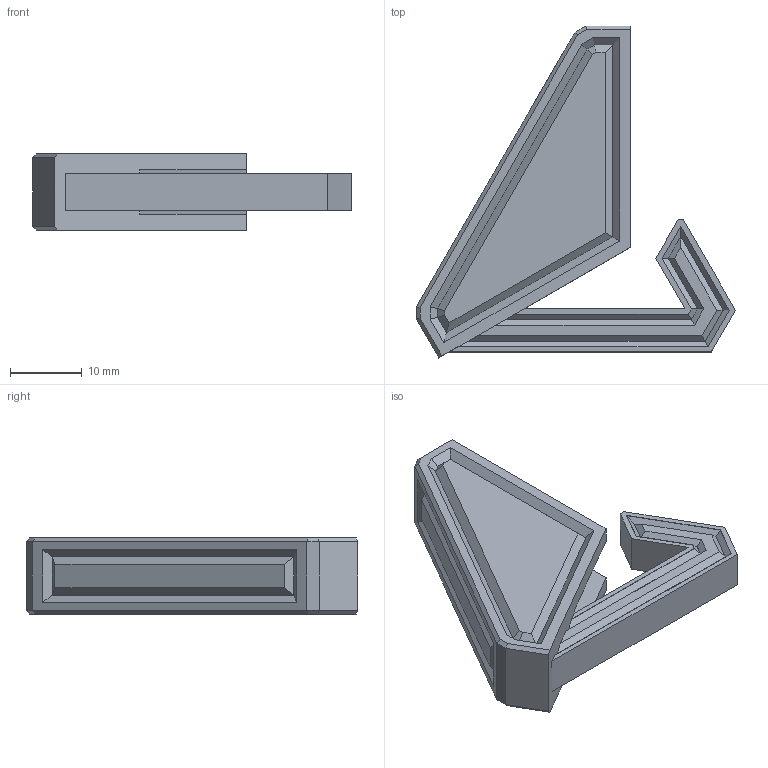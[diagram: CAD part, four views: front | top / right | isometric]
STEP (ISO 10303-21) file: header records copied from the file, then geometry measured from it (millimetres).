
FILE_DESCRIPTION(/* description */ ('STEP AP242','CAx-IF Rec.Pracs.---Representation and Presentation of Product Manufacturing Information (PMI)---4.0---2014-10-13','CAx-IF Rec.Pracs.---3D Tessellated Geometry---0.4---2014-09-14','2;1'),/* implementation_level */ '2;1');
FILE_NAME(/* name */ '6652b450534d9d0c80a40576',/* time_stamp */ '2024-05-26T04:02:24Z',/* author */ (''),/* organization */ (''),/* preprocessor_version */ 'ST-DEVELOPER v20',/* originating_system */ ' ',/* authorisation */ ' ');
FILE_SCHEMA (('AP242_MANAGED_MODEL_BASED_3D_ENGINEERING_MIM_LF { 1 0 10303 442 1 1 4 }'));
Length unit declared in the file: metre
Products named in the file (1): Part 1
Bounding box: 44.4 x 46.2 x 10.6 mm (x, y, z)
Volume: 6593.2 mm3; surface area: 4675.5 mm2
Topology: 1 solids, 1 shells, 129 faces, 310 edges, 186 vertices
Faces by surface type: plane 129
Entity records: 3610 total; most frequent: CARTESIAN_POINT 626, ORIENTED_EDGE 620, DIRECTION 570, EDGE_CURVE 310, LINE 310, VECTOR 310, VERTEX_POINT 186, EDGE_LOOP 132
